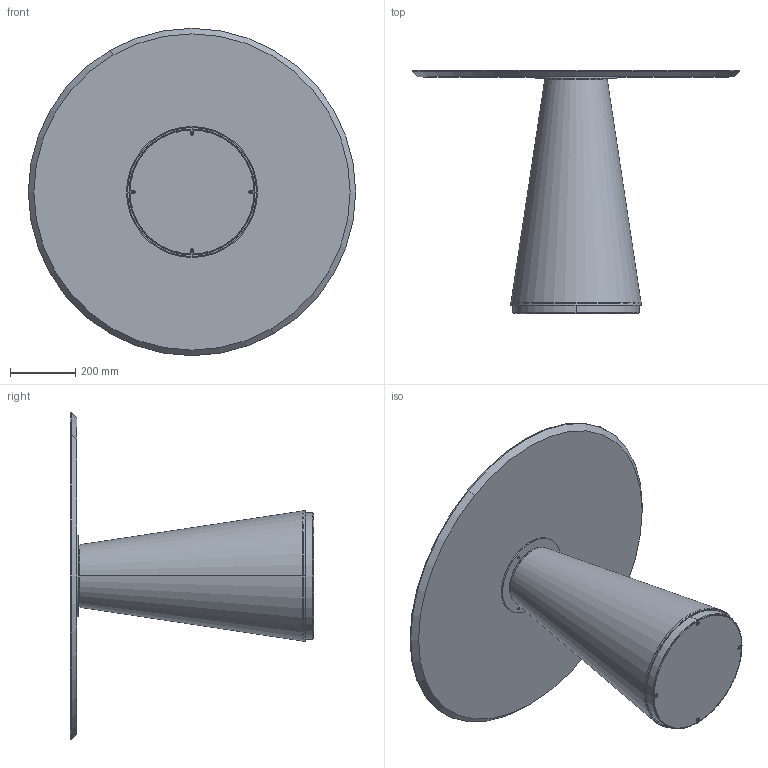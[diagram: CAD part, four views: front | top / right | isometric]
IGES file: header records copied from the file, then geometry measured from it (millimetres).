
Start section: SolidWorks IGES file using analytic representation for surfaces
Global section: file name: Y:\eforma\TECNICO\SOLIDWORKS\E-FORMA\5-TAVOLINI BISTRO\TED\02 parts\TE30W.IGS; native system: SolidWorks 2022; preprocessor: SolidWorks 2022; author: eforma.tech; date: 240808.095148; units: millimetre
Bounding box: 1000 x 743.5 x 1000 mm (x, y, z)
Volume: 16642722.8 mm3; surface area: 3408019.7 mm2
Topology: 14 solids, 14 shells, 376 faces, 795 edges, 436 vertices
Faces by surface type: revolution 201, plane 175
